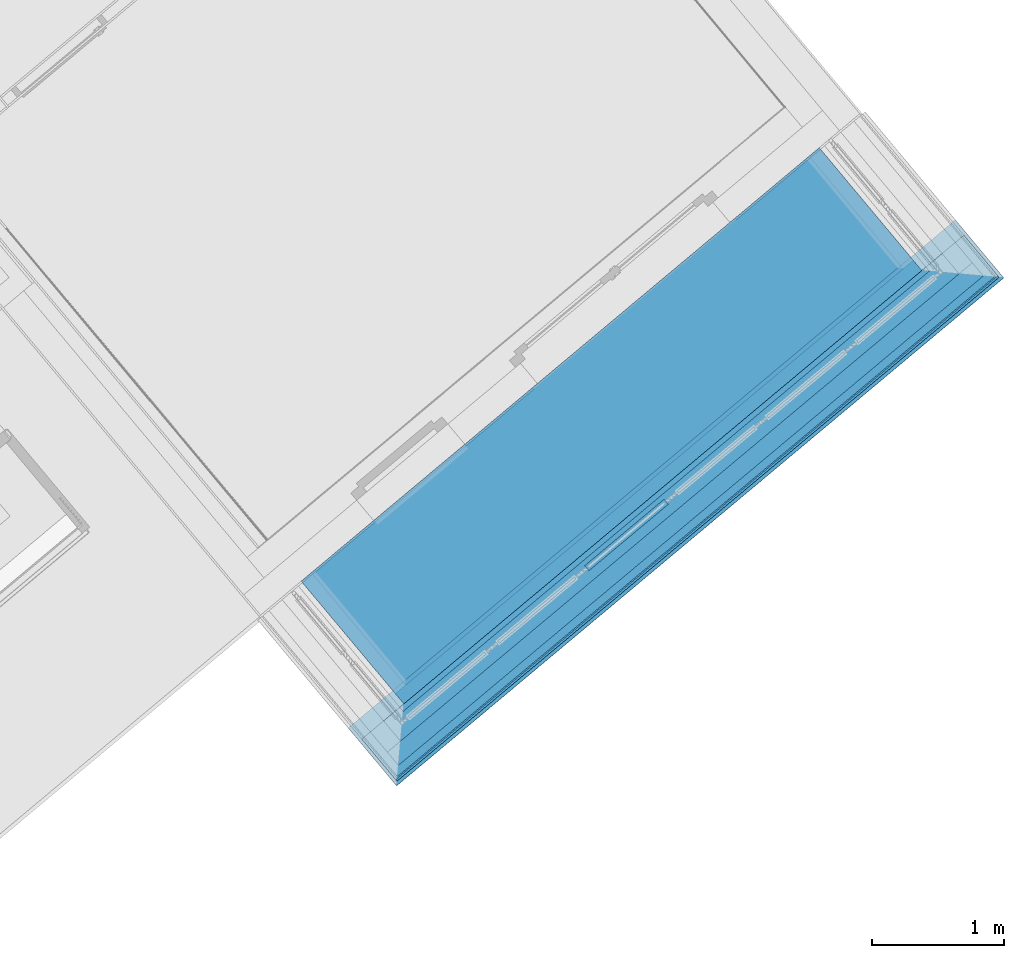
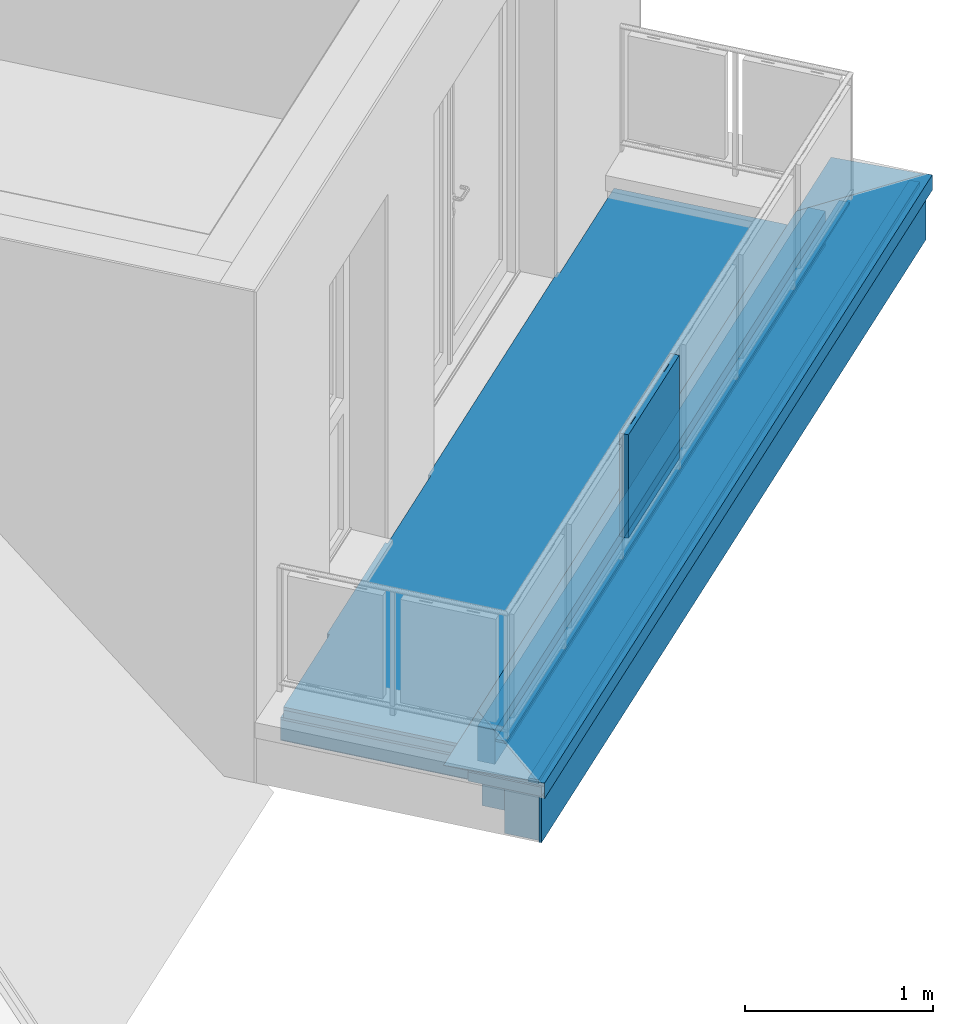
# One storey, part 31 of 47: 15 building element parts, 3 elements without a shape of their own.
"""IFC4 building model written with IfcOpenShell, lengths in metres."""

from ifc_helpers import new_model, entity, si_unit, converted_unit, derived_unit, direction, frame, origin_with_axes, place, context, subcontext, project, spatial, polygons, material, type_object, element, aggregate, save


model = new_model("IFC4")

# Units and contexts
model_context = context("Model", 3, precision=1e-05, world=origin_with_axes(), true_north=direction((0.0, 1.0)))
body_context = subcontext(model_context, "Body", "Model", "MODEL_VIEW")
ifc_project = project(units=[si_unit("LENGTHUNIT", "METRE"), si_unit("AREAUNIT", "SQUARE_METRE"), si_unit("VOLUMEUNIT", "CUBIC_METRE"), converted_unit("PLANEANGLEUNIT", "DEGREE", entity("IfcPlaneAngleMeasure", 0.0174532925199), si_unit("PLANEANGLEUNIT", "RADIAN"), dimensions=[0, 0, 0, 0, 0, 0, 0]), converted_unit("TIMEUNIT", "Year", entity("IfcTimeMeasure", 31556926.0), si_unit("TIMEUNIT", "SECOND"), dimensions=[0, 0, 1, 0, 0, 0, 0]), si_unit("MASSUNIT", "GRAM", prefix="KILO"), si_unit("THERMODYNAMICTEMPERATUREUNIT", "DEGREE_CELSIUS"), si_unit("LUMINOUSINTENSITYUNIT", "LUMEN"), si_unit("ENERGYUNIT", "JOULE", prefix="MEGA"), derived_unit("THERMALCONDUCTANCEUNIT", [(si_unit("POWERUNIT", "WATT"), 1), (si_unit("LENGTHUNIT", "METRE"), -1), (si_unit("THERMODYNAMICTEMPERATUREUNIT", "KELVIN"), -1)]), derived_unit("SPECIFICHEATCAPACITYUNIT", [(si_unit("ENERGYUNIT", "JOULE"), 1), (si_unit("MASSUNIT", "GRAM", prefix="KILO"), -1), (si_unit("THERMODYNAMICTEMPERATUREUNIT", "KELVIN"), -1)]), derived_unit("MASSDENSITYUNIT", [(si_unit("MASSUNIT", "GRAM", prefix="KILO"), 1), (si_unit("VOLUMEUNIT", "CUBIC_METRE"), -1)])], contexts=[model_context])

# Site, building, storey
site_placement = place(None, frame((-0.00153261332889, -0.00661245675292, 0.0), z_axis=(0.0, 0.0, 1.0), x_axis=(1.0, 0.0, 0.0)))
site = spatial("IfcSite", under=ifc_project, at=site_placement, Name="Site", CompositionType="ELEMENT")
building_placement = place(site_placement, origin_with_axes())
building = spatial("IfcBuilding", under=site, at=building_placement, Name="Building", CompositionType="ELEMENT")
storey_placement = place(building_placement, frame((0.0, 0.0, 8.66), z_axis=(0.0, 0.0, 1.0), x_axis=(1.0, 0.0, 0.0)))
storey = spatial("IfcBuildingStorey", under=building, at=storey_placement, Name="DG2", CompositionType="ELEMENT", Elevation=8.66)

# Wall, building element parts
wall_type = type_object("IfcWallType", Name="Bauteil - Attika Terrasse 1.DG 574 x 410", PredefinedType="NOTDEFINED")
wall_placement = place(storey_placement, frame((8.86706086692, 16.7682826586, -0.2), z_axis=(0.0, 0.0, 1.0), x_axis=(0.766948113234, 0.641709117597, 0.0)))
wall = element("IfcWall", 1, at=wall_placement, inside=storey, type_object=wall_type, Name="Wand-004", PredefinedType="NOTDEFINED")
ifc_material_1 = material(Name="Stahl")
building_element_part_1_placement = place(wall_placement, origin_with_axes())
building_element_part_1 = element("IfcBuildingElementPart", 2, at=building_element_part_1_placement, material=ifc_material_1, Name="Stahl", PredefinedType="NOTDEFINED", context=body_context, shape_type="Tessellation", body=[
    polygons([(-0.241500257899, -0.241500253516, 0.510007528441), (-0.241500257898, -0.239585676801, 0.510007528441), (-0.240542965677, -0.240542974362, 0.50905023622), (-0.241500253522, -0.238231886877, 0.511361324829), (-0.241500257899, -0.241500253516, 0.610006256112), (-0.241500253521, -0.202730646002, 0.608602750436), (-0.241500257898, -0.240152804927, 0.608602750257), (-0.241500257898, -0.240146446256, 0.51136132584), (-0.240146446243, -0.238231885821, 0.511361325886), (-0.233287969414, -0.23137340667, 0.518219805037), (5.74582290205, -0.23137340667, 0.518219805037), (5.75267691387, -0.238231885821, 0.511361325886), (5.75403072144, -0.238231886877, 0.511361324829), (5.75402983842, -0.239585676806, 0.510007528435), (5.75307201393, -0.240542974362, 0.509050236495), (5.75402859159, -0.241500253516, 0.510007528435), (5.75402859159, -0.241500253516, 0.610006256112), (5.75405384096, -0.202730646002, 0.608602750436), (5.75270639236, -0.202730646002, 0.608602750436), (5.75183065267, -0.201849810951, 0.608570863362), (5.21824105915, 0.332051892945, 0.589243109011), (0.294660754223, 0.332051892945, 0.589243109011), (-0.239276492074, -0.201849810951, 0.608570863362), (-0.240152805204, -0.202730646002, 0.608602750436), (-0.240152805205, -0.240152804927, 0.608602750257), (5.75268202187, -0.240152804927, 0.608602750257), (5.75402946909, -0.240152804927, 0.608602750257), (5.75402947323, -0.240146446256, 0.51136132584), (5.75267566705, -0.24014644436, 0.511361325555), (-0.240146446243, -0.24014644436, 0.511361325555), (-0.232283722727, -0.23228372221, 0.519224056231), (5.74481806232, -0.23228372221, 0.519224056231), (5.75180627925, -0.239276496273, 0.608570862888), (5.18220274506, 0.330665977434, 0.587938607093), (5.18220281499, 0.330698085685, 0.587937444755), (5.18220365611, 0.332051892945, 0.587938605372), (0.330137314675, 0.332051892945, 0.489652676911), (0.328783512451, 0.332051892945, 0.49100648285), (0.330698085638, 0.332051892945, 0.491006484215), (0.330698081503, 0.332051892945, 0.498822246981), (0.330698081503, 0.332051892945, 0.499999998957), (0.330698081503, 0.332051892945, 0.50905023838), (0.330698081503, 0.332051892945, 0.511361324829), (0.330698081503, 0.332051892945, 0.519224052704), (0.330698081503, 0.332051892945, 0.559999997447), (0.330698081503, 0.332051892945, 0.567947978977), (0.330698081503, 0.332051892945, 0.573880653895), (0.330698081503, 0.332051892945, 0.575979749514), (0.330698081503, 0.332051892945, 0.584015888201), (0.330698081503, 0.332051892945, 0.586106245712), (0.330698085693, 0.332051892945, 0.587938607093), (5.1822036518, 0.332051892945, 0.586106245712), (5.1822036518, 0.332051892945, 0.584015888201), (5.1822036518, 0.332051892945, 0.575979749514), (5.1822036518, 0.332051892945, 0.573880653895), (5.1822036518, 0.332051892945, 0.567947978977), (5.1822036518, 0.332051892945, 0.559999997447), (5.1822036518, 0.332051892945, 0.519224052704), (5.1822036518, 0.332051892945, 0.511361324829), (5.1822036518, 0.332051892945, 0.50905023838), (5.1822036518, 0.332051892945, 0.499999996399), (5.1822036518, 0.332051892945, 0.498822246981), (5.18220364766, 0.332051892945, 0.491006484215), (5.18411820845, 0.332051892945, 0.49100648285), (5.18276440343, 0.332051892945, 0.489652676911), (-0.239276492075, -0.239276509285, 0.608570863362), (0.330698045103, 0.330698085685, 0.587937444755), (0.330698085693, 0.33066589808, 0.587938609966), (5.18220277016, 0.330698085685, 0.586106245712), (0.32878351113, 0.330698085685, 0.491006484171), (0.331094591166, 0.331094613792, 0.488695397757), (0.328783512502, 0.328783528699, 0.49100648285), (0.330698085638, 0.330698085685, 0.491006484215), (0.330698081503, 0.330698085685, 0.498822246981), (0.330698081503, 0.330698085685, 0.499999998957), (0.330698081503, 0.330698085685, 0.50905023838), (0.330698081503, 0.330698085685, 0.511361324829), (0.330698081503, 0.330698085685, 0.519224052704), (0.330698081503, 0.330698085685, 0.559999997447), (0.330698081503, 0.330698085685, 0.567947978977), (0.330698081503, 0.330698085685, 0.573880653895), (0.330698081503, 0.330698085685, 0.575979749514), (0.330698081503, 0.330698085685, 0.584015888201), (0.330698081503, 0.330698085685, 0.586106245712), (5.18220277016, 0.330698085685, 0.584015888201), (5.18220277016, 0.330698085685, 0.575979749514), (5.18220277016, 0.330698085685, 0.573880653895), (5.18220277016, 0.330698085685, 0.567947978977), (5.18220277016, 0.330698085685, 0.559999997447), (5.18220277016, 0.330698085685, 0.519224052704), (5.18220277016, 0.330698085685, 0.511361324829), (5.18220277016, 0.330698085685, 0.50905023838), (5.18220277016, 0.330698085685, 0.499999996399), (5.18220277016, 0.330698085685, 0.498822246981), (5.18220276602, 0.330698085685, 0.491006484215), (5.18411732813, 0.330698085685, 0.491006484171), (5.18180650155, 0.331094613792, 0.488695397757), (5.18411607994, 0.328783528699, 0.49100648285), (0.321878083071, 0.32187807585, 0.497911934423), (5.19101702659, 0.32187807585, 0.497911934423), (0.321878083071, 0.323792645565, 0.497911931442), (0.322882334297, 0.322882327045, 0.498822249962), (5.19001342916, 0.322882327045, 0.498822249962), (5.19101827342, 0.323792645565, 0.497911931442)], [[[1, 2, 3]], [[4, 2, 1, 5, 6, 7, 8]], [[2, 4, 9, 10, 11, 12, 13, 14, 15, 3]], [[1, 3, 15, 16]], [[5, 1, 16, 17]], [[6, 5, 17, 18, 19, 20, 21, 22, 23, 24]], [[25, 7, 6, 24]], [[8, 7, 25, 26, 27, 28, 29, 30]], [[4, 8, 30, 9]], [[9, 30, 31, 10]], [[10, 31, 32, 11]], [[29, 12, 11, 32]], [[12, 29, 28, 13]], [[16, 14, 13, 28, 27, 18, 17]], [[15, 14, 16]], [[27, 26, 19, 18]], [[26, 33, 20, 19]], [[33, 34, 35, 36, 21, 20]], [[37, 38, 39, 40, 41, 42, 43, 44, 45, 46, 47, 48, 49, 50, 51, 22, 21, 36, 52, 53, 54, 55, 56, 57, 58, 59, 60, 61, 62, 63, 64, 65]], [[66, 23, 22, 51, 67, 68]], [[23, 66, 25, 24]], [[25, 66, 33, 26]], [[31, 30, 29, 32]], [[66, 68, 67, 35, 34, 33]], [[69, 52, 36, 35]], [[70, 38, 37, 71, 72]], [[38, 70, 73, 39]], [[40, 39, 73, 74]], [[41, 40, 74, 75]], [[42, 41, 75, 76]], [[43, 42, 76, 77]], [[44, 43, 77, 78]], [[45, 44, 78, 79]], [[46, 45, 79, 80]], [[47, 46, 80, 81]], [[48, 47, 81, 82]], [[49, 48, 82, 83]], [[50, 49, 83, 84]], [[51, 50, 84, 67]], [[52, 69, 85, 53]], [[86, 54, 53, 85]], [[87, 55, 54, 86]], [[88, 56, 55, 87]], [[89, 57, 56, 88]], [[90, 58, 57, 89]], [[91, 59, 58, 90]], [[92, 60, 59, 91]], [[93, 61, 60, 92]], [[61, 93, 94, 62]], [[63, 62, 94, 95]], [[63, 95, 96, 64]], [[97, 65, 64, 96, 98]], [[71, 37, 65, 97]], [[73, 95, 94, 93, 92, 91, 90, 89, 88, 87, 86, 85, 69, 35, 67, 84, 83, 82, 81, 80, 79, 78, 77, 76, 75, 74]], [[99, 72, 71, 97, 98, 100]], [[101, 70, 72, 99]], [[70, 101, 102, 103, 104, 96, 95, 73]], [[98, 96, 104, 100]], [[102, 99, 100, 103]], [[101, 99, 102]], [[104, 103, 100]]], closed=True),
])
ifc_material_2 = material(Name="Holzwerkstoff")
building_element_part_2_placement = place(wall_placement, origin_with_axes())
building_element_part_2 = element("IfcBuildingElementPart", 3, at=building_element_part_2_placement, material=ifc_material_2, Name="Holzwerkstoff", PredefinedType="NOTDEFINED", context=body_context, shape_type="Tessellation", body=[
    polygons([(0.0999999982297, 0.330280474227, 0.575979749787), (0.160110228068, 0.33020717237, 0.573880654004), (0.160110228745, 0.160110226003, 0.573880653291), (0.0999999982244, 0.100000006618, 0.575979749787), (-0.189985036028, 0.330634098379, 0.58610624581), (-0.239999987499, 0.33069508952, 0.587852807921), (-0.239997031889, 0.330698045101, 0.587937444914), (5.75289796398, 0.330698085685, 0.587938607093), (5.75290095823, 0.33069508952, 0.587852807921), (5.7028858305, 0.330634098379, 0.586106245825), (5.64302583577, 0.33056110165, 0.58401588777), (5.41290062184, 0.330280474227, 0.575979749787), (5.35279033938, 0.330207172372, 0.573880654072), (5.18290040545, 0.329999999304, 0.567947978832), (0.329999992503, 0.329999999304, 0.567947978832), (-0.130124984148, 0.33056110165, 0.58401588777), (5.35267956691, 0.160110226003, 0.573880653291), (5.41275065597, 0.100000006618, 0.575979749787), (-0.130124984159, -0.130124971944, 0.58401588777), (-0.189985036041, -0.189985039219, 0.58610624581), (-0.239999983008, -0.239999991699, 0.587852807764), (-0.239997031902, -0.239997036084, 0.587937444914), (-0.239276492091, -0.239276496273, 0.608570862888), (5.75180627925, -0.239276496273, 0.608570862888), (5.75252630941, -0.239996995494, 0.587938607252), (5.75252929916, -0.239999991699, 0.587852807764), (5.70254666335, -0.189984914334, 0.586106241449), (5.64272582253, -0.130124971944, 0.58401588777)], [[[1, 2, 3, 4]], [[5, 6, 7, 8, 9, 10, 11, 12, 13, 14, 15, 2, 1, 16]], [[2, 15, 3]], [[4, 3, 17, 18]], [[16, 1, 4, 19]], [[20, 21, 6, 5]], [[21, 22, 7, 6]], [[7, 23, 24, 8]], [[25, 26, 9, 8]], [[26, 27, 10, 9]], [[11, 10, 27, 28]], [[12, 11, 28, 18]], [[17, 13, 12, 18]], [[14, 13, 17]], [[3, 15, 14, 17]], [[19, 20, 5, 16]], [[4, 18, 28, 19]], [[21, 20, 27, 26]], [[22, 21, 26, 25, 24, 23]], [[22, 23, 7]], [[24, 25, 8]], [[20, 19, 28, 27]]], closed=True),
])
ifc_material_3 = material(Name="EPS 1")
building_element_part_3_placement = place(wall_placement, origin_with_axes())
building_element_part_3 = element("IfcBuildingElementPart", 4, at=building_element_part_3_placement, material=ifc_material_3, Name="EPS 1", PredefinedType="NOTDEFINED", context=body_context, shape_type="Tessellation", body=[
    polygons([(0.199999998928, 0.2, 0.48869538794), (0.199999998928, 0.2, 0.49100648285), (0.199999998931, 0.3, 0.49100648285), (0.199999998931, 0.3, 0.48869538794), (0.199999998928, 0.2, 0.335), (5.31281576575, 0.2, 0.335), (5.31281576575, 0.2, 0.48869538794), (5.31281576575, 0.2, 0.49100648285), (5.31281576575, 0.2, 0.498822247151), (5.31281576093, 0.2, 0.500000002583), (5.31281576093, 0.2, 0.50905023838), (5.31281576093, 0.2, 0.511361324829), (5.31281576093, 0.2, 0.519224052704), (5.31281576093, 0.2, 0.559999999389), (0.200000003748, 0.2, 0.559999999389), (0.200000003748, 0.2, 0.519224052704), (0.200000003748, 0.2, 0.511361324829), (0.200000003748, 0.2, 0.50905023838), (0.199999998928, 0.2, 0.500000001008), (0.199999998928, 0.2, 0.498822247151), (0.199999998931, 0.3, 0.498822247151), (0.199999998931, 0.3, 0.335), (0.199999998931, 0.3, 0.500000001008), (0.20000000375, 0.3, 0.50905023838), (0.20000000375, 0.3, 0.511361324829), (0.20000000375, 0.3, 0.519224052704), (0.20000000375, 0.3, 0.559999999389), (5.31288088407, 0.3, 0.559999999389), (5.31288088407, 0.3, 0.519224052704), (5.31288088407, 0.3, 0.511361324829), (5.31288088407, 0.3, 0.50905023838), (5.31288088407, 0.3, 0.500000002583), (5.31288088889, 0.3, 0.498822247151), (5.31288088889, 0.3, 0.49100648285), (5.31288088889, 0.3, 0.48869538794), (5.31288088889, 0.3, 0.335)], [[[1, 2, 3, 4]], [[1, 5, 6, 7, 8, 9, 10, 11, 12, 13, 14, 15, 16, 17, 18, 19, 20, 2]], [[2, 20, 21, 3]], [[22, 4, 3, 21, 23, 24, 25, 26, 27, 28, 29, 30, 31, 32, 33, 34, 35, 36]], [[5, 1, 4, 22]], [[5, 22, 36, 6]], [[36, 35, 7, 6]], [[35, 34, 8, 7]], [[34, 33, 9, 8]], [[33, 32, 10, 9]], [[11, 10, 32, 31]], [[12, 11, 31, 30]], [[13, 12, 30, 29]], [[14, 13, 29, 28]], [[27, 15, 14, 28]], [[16, 15, 27, 26]], [[17, 16, 26, 25]], [[18, 17, 25, 24]], [[23, 19, 18, 24]], [[20, 19, 23, 21]]], closed=True),
])
ifc_material_4 = material(Name="Vollholz")
building_element_part_4_placement = place(wall_placement, origin_with_axes())
building_element_part_4 = element("IfcBuildingElementPart", 5, at=building_element_part_4_placement, material=ifc_material_4, Name="Vollholz", PredefinedType="NOTDEFINED", context=body_context, shape_type="Tessellation", body=[
    polygons([(0.0999999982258, 0.160110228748, 0.573880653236), (0.0999999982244, 0.1, 0.575979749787), (5.41275065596, 0.1, 0.575979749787), (5.41278980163, 0.160110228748, 0.573880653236), (0.0999999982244, 0.1, 0.573880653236), (0.0999999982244, 0.1, 0.567947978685), (0.0999999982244, 0.1, 0.559999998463), (5.41275065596, 0.1, 0.559999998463), (5.41275065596, 0.1, 0.567947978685), (5.41275065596, 0.1, 0.573880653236), (0.0999999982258, 0.160063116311, 0.567947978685), (5.41278977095, 0.160063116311, 0.567947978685), (5.41278972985, 0.16, 0.559999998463), (0.0999999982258, 0.16, 0.559999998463)], [[[1, 2, 3, 4]], [[5, 2, 1]], [[2, 5, 6, 7, 8, 9, 10, 3]], [[4, 3, 10]], [[11, 1, 4, 12, 13, 14]], [[5, 1, 11, 6]], [[6, 11, 14, 7]], [[7, 14, 13, 8]], [[12, 9, 8, 13]], [[4, 10, 9, 12]]], closed=True),
])
ifc_material_5 = material(Name="Stahlbeton")
building_element_part_5_placement = place(wall_placement, origin_with_axes())
building_element_part_5 = element("IfcBuildingElementPart", 6, at=building_element_part_5_placement, material=ifc_material_5, Name="Stahlbeton", PredefinedType="NOTDEFINED", context=body_context, shape_type="Tessellation", body=[
    polygons([(-2.35250041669e-10, 0.199999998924, 0.499999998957), (-2.39911202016e-10, 1.82835346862e-09, 0.499999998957), (5.51268556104, 1.8283587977e-09, 0.499999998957), (5.51281580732, 0.199999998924, 0.499999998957), (-2.39911202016e-10, 1.82835346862e-09, 0.498822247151), (-2.35246488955e-10, 0.199999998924, 0.498822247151), (-2.39911202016e-10, 1.82835346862e-09, 0.49100648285), (-2.39911202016e-10, 1.82835346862e-09, 0.488695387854), (-2.39911202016e-10, 1.82835346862e-09, 0.335), (-2.39907649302e-10, 1.82835702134e-09, 0.2), (5.51268556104, 1.8283587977e-09, 0.2), (5.51268556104, 1.82835346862e-09, 0.335), (5.51268556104, 1.82835524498e-09, 0.488695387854), (5.51268556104, 1.82835524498e-09, 0.49100648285), (5.51268556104, 1.82835524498e-09, 0.498822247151), (5.51281580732, 0.199999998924, 0.498822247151), (5.51281580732, 0.199999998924, 0.49100648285), (5.51281580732, 0.199999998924, 0.488695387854), (5.51281580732, 0.199999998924, 0.335), (-2.35246488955e-10, 0.199999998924, 0.335), (-2.35246488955e-10, 0.199999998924, 0.488695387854), (-2.35246488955e-10, 0.199999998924, 0.49100648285), (-2.35246488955e-10, 0.199999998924, 0.2), (5.51281580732, 0.199999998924, 0.2)], [[[1, 2, 3, 4]], [[5, 2, 1, 6]], [[2, 5, 7, 8, 9, 10, 11, 12, 13, 14, 15, 3]], [[4, 3, 15, 16]], [[6, 1, 4, 16, 17, 18, 19, 20, 21, 22]], [[5, 6, 22, 7]], [[7, 22, 21, 8]], [[8, 21, 20, 9]], [[9, 20, 23, 10]], [[10, 23, 24, 11]], [[19, 12, 11, 24]], [[18, 13, 12, 19]], [[17, 14, 13, 18]], [[16, 15, 14, 17]], [[23, 20, 19, 24]]], closed=True),
])
building_element_part_6_placement = place(wall_placement, origin_with_axes())
building_element_part_6 = element("IfcBuildingElementPart", 7, at=building_element_part_6_placement, material=ifc_material_3, Name="EPS 1", PredefinedType="NOTDEFINED", context=body_context, shape_type="Tessellation", body=[
    polygons([(-0.199999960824, -2.39909425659e-10, 0.499999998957), (-0.199999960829, -0.19999996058, 0.499999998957), (5.71255531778, -0.19999996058, 0.499999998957), (5.71268556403, -2.39904984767e-10, 0.499999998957), (-0.199999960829, -0.19999996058, 0.498822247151), (-0.199999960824, -2.39909425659e-10, 0.498822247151), (-0.199999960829, -0.19999996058, 0.49100648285), (-0.199999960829, -0.19999996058, 0.488695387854), (-0.199999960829, -0.19999996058, 0.335), (-0.199999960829, -0.19999996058, 0.2), (5.71255531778, -0.19999996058, 0.2), (5.71255531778, -0.19999996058, 0.335), (5.71255531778, -0.19999996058, 0.488695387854), (5.71255531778, -0.19999996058, 0.49100648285), (5.71255531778, -0.19999996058, 0.498822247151), (5.71268556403, -2.39910313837e-10, 0.498822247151), (5.71268556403, -2.39910313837e-10, 0.49100648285), (5.71268556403, -2.39910313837e-10, 0.488695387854), (5.71268556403, -2.39910313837e-10, 0.335), (5.71268556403, -2.39906761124e-10, 0.2), (-0.199999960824, -2.39909425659e-10, 0.2), (-0.199999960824, -2.39909425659e-10, 0.335), (-0.199999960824, -2.39909425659e-10, 0.488695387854), (-0.199999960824, -2.39909425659e-10, 0.49100648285)], [[[1, 2, 3, 4]], [[5, 2, 1, 6]], [[2, 5, 7, 8, 9, 10, 11, 12, 13, 14, 15, 3]], [[4, 3, 15, 16]], [[6, 1, 4, 16, 17, 18, 19, 20, 21, 22, 23, 24]], [[5, 6, 24, 7]], [[7, 24, 23, 8]], [[8, 23, 22, 9]], [[9, 22, 21, 10]], [[10, 21, 20, 11]], [[19, 12, 11, 20]], [[18, 13, 12, 19]], [[17, 14, 13, 18]], [[16, 15, 14, 17]]], closed=True),
])
building_element_part_7_placement = place(wall_placement, origin_with_axes())
building_element_part_7 = element("IfcBuildingElementPart", 8, at=building_element_part_7_placement, material=ifc_material_4, Name="Vollholz", PredefinedType="NOTDEFINED", context=body_context, shape_type="Tessellation", body=[
    polygons([(-0.189996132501, -0.130124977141, 0.584015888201), (-0.189985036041, -0.189984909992, 0.58610624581), (5.70254678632, -0.189984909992, 0.586106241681), (5.70259698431, -0.13012497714, 0.584015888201), (-0.189996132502, -0.189996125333, 0.584015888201), (-0.190039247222, -0.190039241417, 0.575979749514), (-0.19005050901, -0.190050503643, 0.573880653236), (-0.190082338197, -0.190082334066, 0.567947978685), (-0.190124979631, -0.190124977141, 0.559999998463), (5.70268676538, -0.190124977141, 0.559999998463), (5.70264414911, -0.190082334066, 0.567947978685), (5.7026123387, -0.190050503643, 0.573880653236), (5.70260108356, -0.190039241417, 0.575979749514), (5.70255799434, -0.189996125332, 0.584015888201), (-0.19003924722, -0.130124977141, 0.575979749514), (5.70264010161, -0.130124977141, 0.575979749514), (5.70265136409, -0.130124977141, 0.573880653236), (5.70268319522, -0.130124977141, 0.567947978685), (5.70272583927, -0.130124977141, 0.559999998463), (-0.19012497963, -0.130124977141, 0.559999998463), (-0.190082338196, -0.130124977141, 0.567947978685), (-0.190050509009, -0.130124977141, 0.573880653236)], [[[1, 2, 3, 4]], [[5, 2, 1]], [[2, 5, 6, 7, 8, 9, 10, 11, 12, 13, 14, 3]], [[3, 14, 4]], [[15, 1, 4, 16, 17, 18, 19, 20, 21, 22]], [[5, 1, 15, 6]], [[6, 15, 22, 7]], [[7, 22, 21, 8]], [[8, 21, 20, 9]], [[9, 20, 19, 10]], [[18, 11, 10, 19]], [[17, 12, 11, 18]], [[16, 13, 12, 17]], [[4, 14, 13, 16]]], closed=True),
])
ifc_material_6 = material(Name="Zementputz")
building_element_part_8_placement = place(wall_placement, origin_with_axes())
building_element_part_8 = element("IfcBuildingElementPart", 9, at=building_element_part_8_placement, material=ifc_material_6, Name="Zementputz", PredefinedType="NOTDEFINED", context=body_context, shape_type="Tessellation", body=[
    polygons([(-0.214999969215, -0.199999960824, 0.499999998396), (-0.214999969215, -0.214999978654, 0.499999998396), (5.72754556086, -0.214999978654, 0.499999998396), (5.72755532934, -0.199999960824, 0.499999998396), (-0.214999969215, -0.214999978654, 0.2), (-0.214999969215, -0.199999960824, 0.2), (5.72754556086, -0.214999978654, 0.2), (5.72755532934, -0.199999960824, 0.2)], [[[1, 2, 3, 4]], [[5, 2, 1, 6]], [[2, 5, 7, 3]], [[3, 7, 8, 4]], [[6, 1, 4, 8]], [[5, 6, 8, 7]]], closed=True),
])
ifc_material_7 = material(Name="Brettschichtholz")
building_element_part_9_placement = place(wall_placement, origin_with_axes())
building_element_part_9 = element("IfcBuildingElementPart", 10, at=building_element_part_9_placement, material=ifc_material_7, Name="Brettschichtholz", PredefinedType="NOTDEFINED", context=body_context, shape_type="Tessellation", body=[
    polygons([(-0.214999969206, 0.200000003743, 0.499999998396), (-0.214999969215, -0.214999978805, 0.499999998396), (-0.214999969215, -0.214999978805, 0.50905023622), (-0.214999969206, 0.200000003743, 0.50905023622), (5.72781582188, 0.200000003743, 0.499999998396), (5.72754556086, -0.214999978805, 0.499999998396), (5.72754556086, -0.214999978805, 0.50905023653), (5.7275455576, -0.214999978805, 0.511361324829), (5.72754556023, -0.214999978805, 0.519224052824), (5.7275455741, -0.214999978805, 0.559999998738), (-0.214999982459, -0.214999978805, 0.559999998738), (-0.214999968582, -0.214999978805, 0.519224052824), (-0.214999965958, -0.214999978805, 0.511361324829), (-0.214999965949, 0.200000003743, 0.511361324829), (-0.214999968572, 0.200000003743, 0.519224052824), (-0.21499998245, 0.200000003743, 0.559999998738), (5.72781583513, 0.200000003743, 0.559999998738), (5.72781582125, 0.200000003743, 0.519224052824), (5.72781581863, 0.200000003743, 0.511361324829), (5.72781582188, 0.200000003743, 0.509050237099), (5.72778978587, 0.159999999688, 0.559999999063), (5.72775071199, 0.100000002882, 0.559999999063), (5.72760084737, -0.130124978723, 0.559999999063), (5.72756177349, -0.190124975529, 0.559999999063), (-0.214999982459, -0.190124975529, 0.559999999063), (-0.214999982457, -0.130124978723, 0.559999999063), (-0.214999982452, 0.100000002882, 0.559999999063), (-0.214999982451, 0.159999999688, 0.559999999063)], [[[1, 2, 3, 4]], [[2, 1, 5, 6]], [[3, 2, 6, 7, 8, 9, 10, 11, 12, 13]], [[4, 3, 13, 14]], [[1, 4, 14, 15, 16, 17, 18, 19, 20, 5]], [[5, 20, 7, 6]], [[19, 8, 7, 20]], [[8, 19, 18, 9]], [[9, 18, 17, 21, 22, 23, 24, 10]], [[25, 11, 10, 24]], [[11, 25, 26, 27, 28, 16, 15, 12]], [[14, 13, 12, 15]], [[16, 28, 21, 17]], [[28, 27, 22, 21]], [[27, 26, 23, 22]], [[26, 25, 24, 23]]], closed=True),
])
aggregate(wall, [building_element_part_1, building_element_part_2, building_element_part_3, building_element_part_4, building_element_part_5, building_element_part_6, building_element_part_7, building_element_part_8, building_element_part_9])

# Covering, building element parts
covering_type = type_object("IfcCoveringType", Name="Balkon vor Terrasse 220", PredefinedType="NOTDEFINED")
covering_placement = place(storey_placement, frame((8.89210866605, 17.0500141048, 0.0), z_axis=(0.0, 0.0, 1.0), x_axis=(1.0, 0.0, 0.0)))
covering = element("IfcCovering", 11, at=covering_placement, inside=storey, type_object=covering_type, Name="Decke-005", PredefinedType="NOTDEFINED")
ifc_material_8 = material(Name="Platten")
building_element_part_10_placement = place(covering_placement, origin_with_axes())
building_element_part_10 = element("IfcBuildingElementPart", 12, at=building_element_part_10_placement, material=ifc_material_8, Name="Platten", PredefinedType="NOTDEFINED", context=body_context, shape_type="Tessellation", body=[
    polygons([(-0.219204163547, 1.37643832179, 0.22), (-0.767690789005, 0.917516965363, 0.22), (0.0, 0.0, 0.22), (3.92126440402, 3.28094049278, 0.22), (3.15417113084, 4.19895740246, 0.22), (2.51600409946, 3.66500002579, 0.22), (2.5063784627, 3.67650424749, 0.22), (0.972482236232, 2.39308601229, 0.22), (0.982107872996, 2.3815817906, 0.22), (0.471049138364, 1.95397652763, 0.22), (0.4614235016, 1.96548074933, 0.22), (-0.228829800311, 1.38794254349, 0.22), (-0.219204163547, 1.37643832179, 0.2), (-0.767690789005, 0.917516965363, 0.2), (0.0, 0.0, 0.2), (3.92126440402, 3.28094049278, 0.2), (3.15417113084, 4.19895740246, 0.2), (2.51600409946, 3.66500002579, 0.2), (2.5063784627, 3.67650424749, 0.2), (0.972482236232, 2.39308601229, 0.2), (0.982107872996, 2.3815817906, 0.2), (0.471049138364, 1.95397652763, 0.2), (0.4614235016, 1.96548074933, 0.2), (-0.228829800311, 1.38794254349, 0.2)], [[[1, 2, 3, 4, 5, 6, 7, 8, 9, 10, 11, 12]], [[2, 1, 13, 14]], [[2, 14, 15, 3]], [[15, 16, 4, 3]], [[17, 5, 4, 16]], [[6, 5, 17, 18]], [[7, 6, 18, 19]], [[20, 8, 7, 19]], [[9, 8, 20, 21]], [[10, 9, 21, 22]], [[11, 10, 22, 23]], [[24, 12, 11, 23]], [[1, 12, 24, 13]], [[13, 24, 23, 22, 21, 20, 19, 18, 17, 16, 15, 14]]], closed=True),
])
ifc_material_9 = material(Name="Luftschicht horizontal")
building_element_part_11_placement = place(covering_placement, origin_with_axes())
building_element_part_11 = element("IfcBuildingElementPart", 13, at=building_element_part_11_placement, material=ifc_material_9, Name="Luftschicht horizontal", PredefinedType="NOTDEFINED", context=body_context, shape_type="Tessellation", body=[
    polygons([(-0.219204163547, 1.37643832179, 0.2), (-0.767690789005, 0.917516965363, 0.2), (0.0, 0.0, 0.2), (3.92126440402, 3.28094049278, 0.2), (3.15417113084, 4.19895740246, 0.2), (2.51600409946, 3.66500002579, 0.2), (2.5063784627, 3.67650424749, 0.2), (0.972482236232, 2.39308601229, 0.2), (0.982107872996, 2.3815817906, 0.2), (0.471049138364, 1.95397652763, 0.2), (0.4614235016, 1.96548074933, 0.2), (-0.228829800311, 1.38794254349, 0.2), (-0.219204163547, 1.37643832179, 0.15), (-0.767690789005, 0.917516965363, 0.15), (0.0, 0.0, 0.15), (3.92126440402, 3.28094049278, 0.15), (3.15417113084, 4.19895740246, 0.15), (2.51600409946, 3.66500002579, 0.15), (2.5063784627, 3.67650424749, 0.15), (0.972482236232, 2.39308601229, 0.15), (0.982107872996, 2.3815817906, 0.15), (0.471049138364, 1.95397652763, 0.15), (0.4614235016, 1.96548074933, 0.15), (-0.228829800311, 1.38794254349, 0.15)], [[[1, 2, 3, 4, 5, 6, 7, 8, 9, 10, 11, 12]], [[2, 1, 13, 14]], [[2, 14, 15, 3]], [[15, 16, 4, 3]], [[17, 5, 4, 16]], [[6, 5, 17, 18]], [[7, 6, 18, 19]], [[20, 8, 7, 19]], [[9, 8, 20, 21]], [[10, 9, 21, 22]], [[11, 10, 22, 23]], [[24, 12, 11, 23]], [[1, 12, 24, 13]], [[13, 24, 23, 22, 21, 20, 19, 18, 17, 16, 15, 14]]], closed=True),
])
ifc_material_10 = material(Name="Sperrschicht")
building_element_part_12_placement = place(covering_placement, origin_with_axes())
building_element_part_12 = element("IfcBuildingElementPart", 14, at=building_element_part_12_placement, material=ifc_material_10, Name="Sperrschicht", PredefinedType="NOTDEFINED", context=body_context, shape_type="Tessellation", body=[
    polygons([(3.92126440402, 3.28094049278, 0.135), (3.92126440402, 3.28094049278, 0.15), (0.0, 0.0, 0.15), (0.0, 0.0, 0.135), (3.14455298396, 4.21046789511, 0.135), (3.14455298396, 4.21046789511, 0.15), (-0.777316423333, 0.929021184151, 0.15), (-0.777316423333, 0.929021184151, 0.135)], [[[1, 2, 3, 4]], [[5, 6, 2, 1]], [[3, 2, 6, 7]], [[4, 3, 7, 8]], [[4, 8, 5, 1]], [[8, 7, 6, 5]]], closed=True),
])
ifc_material_11 = material(Name="XPS")
building_element_part_13_placement = place(covering_placement, origin_with_axes())
building_element_part_13 = element("IfcBuildingElementPart", 15, at=building_element_part_13_placement, material=ifc_material_11, Name="XPS", PredefinedType="NOTDEFINED", context=body_context, shape_type="Tessellation", body=[
    polygons([(3.92126440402, 3.28094049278, 0.005), (3.92126440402, 3.28094049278, 0.135), (0.0, 0.0, 0.135), (0.0, 0.0, 0.005), (3.14455298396, 4.21046789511, 0.005), (3.14455298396, 4.21046789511, 0.135), (-0.777316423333, 0.929021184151, 0.135), (-0.777316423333, 0.929021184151, 0.005)], [[[1, 2, 3, 4]], [[5, 6, 2, 1]], [[3, 2, 6, 7]], [[4, 3, 7, 8]], [[4, 8, 5, 1]], [[8, 7, 6, 5]]], closed=True),
])
building_element_part_14_placement = place(covering_placement, origin_with_axes())
building_element_part_14 = element("IfcBuildingElementPart", 16, at=building_element_part_14_placement, material=ifc_material_10, Name="Sperrschicht", PredefinedType="NOTDEFINED", context=body_context, shape_type="Tessellation", body=[
    polygons([(0.0, 0.0, 0.0), (3.92126440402, 3.28094049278, 0.0), (3.92126440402, 3.28094049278, 0.005), (0.0, 0.0, 0.005), (-0.777316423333, 0.929021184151, 0.0), (3.14455298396, 4.21046789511, 0.0), (3.14455298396, 4.21046789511, 0.005), (-0.777316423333, 0.929021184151, 0.005)], [[[1, 2, 3, 4]], [[1, 5, 6, 2]], [[2, 6, 7, 3]], [[4, 3, 7, 8]], [[5, 1, 4, 8]], [[6, 5, 8, 7]]], closed=True),
])
aggregate(covering, [building_element_part_10, building_element_part_11, building_element_part_12, building_element_part_13, building_element_part_14])

# Railing, building element part
railing_type = type_object("IfcRailingType", Name="Geländerart", PredefinedType="NOTDEFINED")
railing_placement = place(storey_placement, frame((8.09801261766, 17.9211539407, 0.38), z_axis=(0.0, 0.0, 1.0), x_axis=(1.0, 0.0, 0.0)))
railing = element("IfcRailing", 17, at=railing_placement, inside=storey, type_object=railing_type, Name="Geländer - 001", PredefinedType="NOTDEFINED")
ifc_material_12 = material(Name="Aluminium")
building_element_part_15_placement = place(railing_placement, origin_with_axes())
building_element_part_15 = element("IfcBuildingElementPart", 18, at=building_element_part_15_placement, material=ifc_material_12, Name="Aluminium", PredefinedType="NOTDEFINED", context=body_context, shape_type="Tessellation", body=[
    polygons([(2.25358903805, 0.221668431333, 0.12), (2.30727942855, 0.266583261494, 0.12), (2.30727942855, 0.266583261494, 0.095), (2.25358903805, 0.221668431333, 0.095), (2.25679724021, 0.21783340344, 0.12), (2.3104876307, 0.262748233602, 0.12), (2.3104876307, 0.262748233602, 0.095), (2.25679724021, 0.21783340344, 0.095)], [[[1, 2, 3, 4]], [[5, 6, 2, 1]], [[2, 6, 7, 3]], [[4, 3, 7, 8]], [[1, 4, 8, 5]], [[8, 7, 6, 5]]], closed=True),
    polygons([(2.64883939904, 0.552316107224, 0.12), (2.70252978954, 0.597230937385, 0.12), (2.70252978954, 0.597230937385, 0.095), (2.64883939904, 0.552316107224, 0.095), (2.6520476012, 0.548481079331, 0.12), (2.70573799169, 0.593395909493, 0.12), (2.70573799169, 0.593395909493, 0.095), (2.6520476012, 0.548481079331, 0.095)], [[[1, 2, 3, 4]], [[5, 6, 2, 1]], [[2, 6, 7, 3]], [[4, 3, 7, 8]], [[1, 4, 8, 5]], [[8, 7, 6, 5]]], closed=True),
    polygons([(2.70252978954, 0.597230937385, 0.79), (2.64883939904, 0.552316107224, 0.79), (2.64883939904, 0.552316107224, 0.795), (2.70252978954, 0.597230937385, 0.795), (2.70573799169, 0.593395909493, 0.79), (2.6520476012, 0.548481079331, 0.79), (2.6520476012, 0.548481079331, 0.795), (2.70573799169, 0.593395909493, 0.795)], [[[1, 2, 3, 4]], [[5, 6, 2, 1]], [[2, 6, 7, 3]], [[4, 3, 7, 8]], [[1, 4, 8, 5]], [[8, 7, 6, 5]]], closed=True),
    polygons([(2.30727942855, 0.266583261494, 0.79), (2.25358903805, 0.221668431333, 0.79), (2.25358903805, 0.221668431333, 0.795), (2.30727942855, 0.266583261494, 0.795), (2.3104876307, 0.262748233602, 0.79), (2.25679724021, 0.21783340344, 0.79), (2.25679724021, 0.21783340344, 0.795), (2.3104876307, 0.262748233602, 0.795)], [[[1, 2, 3, 4]], [[5, 6, 2, 1]], [[2, 6, 7, 3]], [[4, 3, 7, 8]], [[1, 4, 8, 5]], [[8, 7, 6, 5]]], closed=True),
    polygons([(2.19453359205, 0.136411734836, 0.12), (2.16245157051, 0.174762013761, 0.12), (2.76479343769, 0.67865260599, 0.12), (2.79687545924, 0.640302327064, 0.12), (2.20987370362, 0.149244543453, 0.14), (2.20024909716, 0.160749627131, 0.14), (2.19641406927, 0.157541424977, 0.135), (2.18358126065, 0.172881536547, 0.135), (2.18741628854, 0.176089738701, 0.14), (2.17779168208, 0.187594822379, 0.14), (2.74945332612, 0.665819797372, 0.14), (2.74945332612, 0.665819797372, 0.77), (2.17779168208, 0.187594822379, 0.77), (2.17779168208, 0.187594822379, 0.14), (2.16245157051, 0.174762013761, 0.12), (2.16245157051, 0.174762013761, 0.79), (2.76479343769, 0.67865260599, 0.79), (2.79687545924, 0.640302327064, 0.79), (2.19453359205, 0.136411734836, 0.79), (2.19453359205, 0.136411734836, 0.12), (2.20987370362, 0.149244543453, 0.14), (2.20987370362, 0.149244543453, 0.77), (2.78153534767, 0.627469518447, 0.77), (2.78153534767, 0.627469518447, 0.14), (2.7719107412, 0.638974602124, 0.14), (2.7719107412, 0.638974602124, 0.77), (2.20024909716, 0.160749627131, 0.77), (2.20024909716, 0.160749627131, 0.14), (2.19641406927, 0.157541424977, 0.135), (2.19641406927, 0.157541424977, 0.775), (2.7757457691, 0.642182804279, 0.775), (2.7757457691, 0.642182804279, 0.135), (2.76291296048, 0.657522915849, 0.135), (2.76291296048, 0.657522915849, 0.775), (2.18358126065, 0.172881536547, 0.775), (2.18358126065, 0.172881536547, 0.135), (2.18741628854, 0.176089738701, 0.14), (2.18741628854, 0.176089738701, 0.77), (2.75907793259, 0.654314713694, 0.77), (2.75907793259, 0.654314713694, 0.14)], [[[1, 2, 3, 4]], [[1, 5, 6, 7, 8, 9, 10, 2]], [[2, 10, 11, 12, 13, 14, 15, 16, 17, 3]], [[4, 3, 17, 18]], [[5, 1, 4, 18, 19, 20, 21, 22, 23, 24]], [[6, 5, 24, 25]], [[7, 6, 25, 26, 27, 28, 29, 30, 31, 32]], [[8, 7, 32, 33]], [[9, 8, 33, 34, 35, 36, 37, 38, 39, 40]], [[10, 9, 40, 11]], [[11, 40, 39, 12]], [[12, 39, 38, 13]], [[13, 38, 37, 14]], [[20, 15, 14, 37, 36, 29, 28, 21]], [[19, 16, 15, 20]], [[18, 17, 16, 19]], [[27, 22, 21, 28]], [[26, 23, 22, 27]], [[25, 24, 23, 26]], [[35, 30, 29, 36]], [[34, 31, 30, 35]], [[33, 32, 31, 34]]], closed=True),
])
aggregate(railing, [building_element_part_15])

save(model, "model.ifc")
